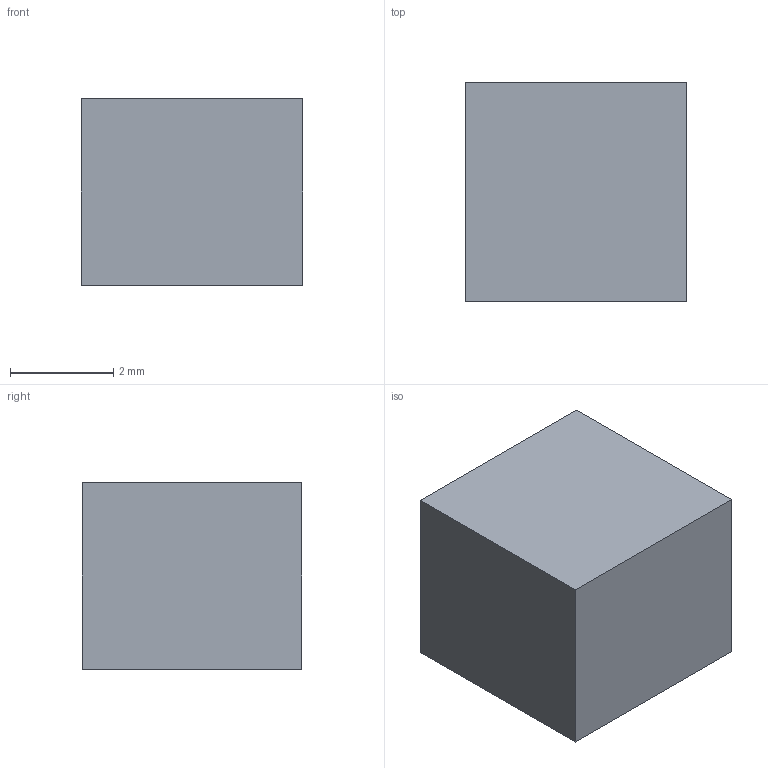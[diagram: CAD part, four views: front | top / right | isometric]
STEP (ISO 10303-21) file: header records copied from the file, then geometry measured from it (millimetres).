
FILE_DESCRIPTION(('Open CASCADE Model'),'2;1');
FILE_NAME('Open CASCADE Shape Model','2026-08-18T10:55:10',('Author'),( 'Open CASCADE'),'Open CASCADE STEP processor 7.9','Open CASCADE 7.9' ,'Unknown');
FILE_SCHEMA(('AUTOMOTIVE_DESIGN { 1 0 10303 214 1 1 1 1 }'));
Length unit declared in the file: millimetre
Products named in the file (1): rtc_battery_connector
Bounding box: 4.29 x 4.25 x 3.61 mm (x, y, z)
Volume: 65.8 mm3; surface area: 98.1 mm2
Topology: 1 solids, 1 shells, 6 faces, 12 edges, 8 vertices
Faces by surface type: plane 6
Entity records: 322 total; most frequent: CARTESIAN_POINT 51, DIRECTION 50, LINE 36, VECTOR 36, ORIENTED_EDGE 24, PCURVE 24, DEFINITIONAL_REPRESENTATION 24, EDGE_CURVE 12
